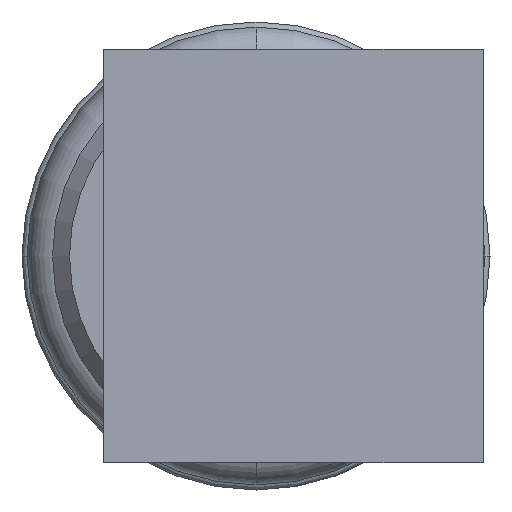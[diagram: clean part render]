
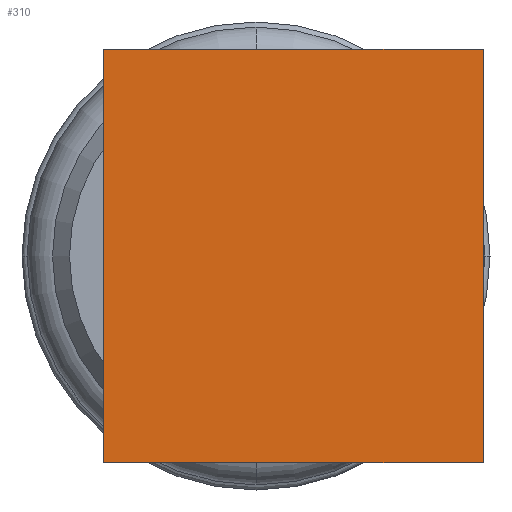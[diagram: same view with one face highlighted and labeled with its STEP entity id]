
A CAD part, left-side view. The second image highlights one B-rep face of the part: STEP entity #310.
In plain terms, the highlighted planar face has unit normal (-1, 0, 0).
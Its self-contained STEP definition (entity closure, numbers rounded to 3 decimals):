
#57 = CARTESIAN_POINT ( 'NONE',  ( -175., -12.5, -6.1 ) ) ;
#159 = LINE ( 'NONE', #1294, #3029 ) ;
#231 = DIRECTION ( 'NONE',  ( 0., 1., 0. ) ) ;
#268 = VERTEX_POINT ( 'NONE', #1279 ) ;
#310 = ADVANCED_FACE ( 'NONE', ( #722 ), #783, .T. ) ;
#412 = ORIENTED_EDGE ( 'NONE', *, *, #781, .T. ) ;
#577 = VERTEX_POINT ( 'NONE', #626 ) ;
#626 = CARTESIAN_POINT ( 'NONE',  ( -175., 4.5, 6.1 ) ) ;
#722 = FACE_OUTER_BOUND ( 'NONE', #3552, .T. ) ;
#762 = AXIS2_PLACEMENT_3D ( 'NONE', #1939, #1901, #1319 ) ;
#775 = EDGE_CURVE ( 'NONE', #1125, #577, #159, .T. ) ;
#781 = EDGE_CURVE ( 'NONE', #268, #1125, #3604, .T. ) ;
#783 = PLANE ( 'NONE',  #762 ) ;
#954 = ORIENTED_EDGE ( 'NONE', *, *, #3135, .F. ) ;
#1125 = VERTEX_POINT ( 'NONE', #3360 ) ;
#1279 = CARTESIAN_POINT ( 'NONE',  ( -175., -6.7, -6.1 ) ) ;
#1287 = VECTOR ( 'NONE', #1674, 1000. ) ;
#1294 = CARTESIAN_POINT ( 'NONE',  ( -175., -12.5, 6.1 ) ) ;
#1319 = DIRECTION ( 'NONE',  ( 0., 0., 1. ) ) ;
#1523 = EDGE_CURVE ( 'NONE', #268, #2688, #3116, .T. ) ;
#1568 = CARTESIAN_POINT ( 'NONE',  ( -175., -6.7, -15. ) ) ;
#1674 = DIRECTION ( 'NONE',  ( 0., 0., 1. ) ) ;
#1901 = DIRECTION ( 'NONE',  ( -1., 0., 0. ) ) ;
#1939 = CARTESIAN_POINT ( 'NONE',  ( -175., -166.664, -15. ) ) ;
#2092 = CARTESIAN_POINT ( 'NONE',  ( -175., 4.5, -6.1 ) ) ;
#2149 = ORIENTED_EDGE ( 'NONE', *, *, #1523, .F. ) ;
#2367 = VECTOR ( 'NONE', #2848, 1000. ) ;
#2419 = LINE ( 'NONE', #3279, #1287 ) ;
#2426 = DIRECTION ( 'NONE',  ( 0., 0., 1. ) ) ;
#2445 = VECTOR ( 'NONE', #2426, 1000. ) ;
#2580 = ORIENTED_EDGE ( 'NONE', *, *, #775, .T. ) ;
#2688 = VERTEX_POINT ( 'NONE', #2092 ) ;
#2848 = DIRECTION ( 'NONE',  ( 0., 1., 0. ) ) ;
#3029 = VECTOR ( 'NONE', #231, 1000. ) ;
#3116 = LINE ( 'NONE', #57, #2367 ) ;
#3135 = EDGE_CURVE ( 'NONE', #2688, #577, #2419, .T. ) ;
#3279 = CARTESIAN_POINT ( 'NONE',  ( -175., 4.5, -15. ) ) ;
#3360 = CARTESIAN_POINT ( 'NONE',  ( -175., -6.7, 6.1 ) ) ;
#3552 = EDGE_LOOP ( 'NONE', ( #2149, #412, #2580, #954 ) ) ;
#3604 = LINE ( 'NONE', #1568, #2445 ) ;
